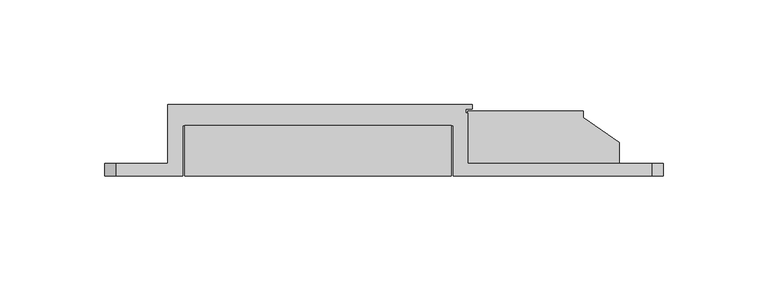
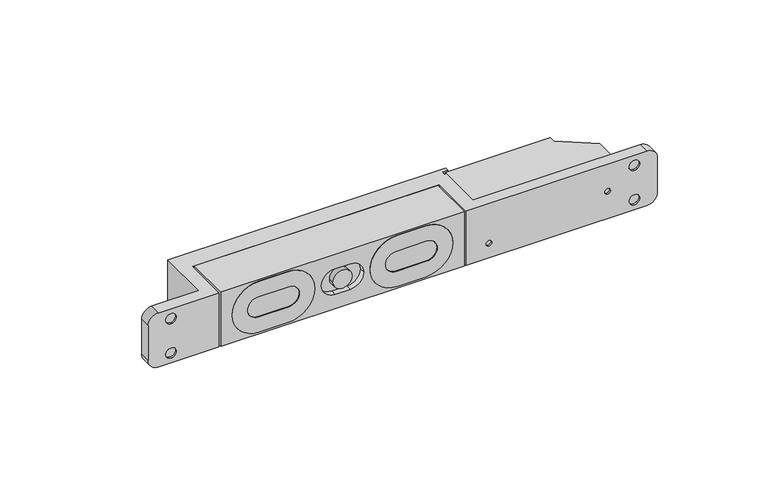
"""IFC4 building model written with IfcOpenShell, lengths in millimetres: proxy geometry, Электромагнитный_замок_ML-1200N2(1)_AccordTec_R19 : Электромагнитный_замок_ML-1200N2(1)_AccordTec_R19."""

import ifcopenshell
import ifcopenshell.guid

model = None  # the IFC model being written
_history = None  # IfcOwnerHistory: only IFC2X3 demands one
_inside = {}  # id of a spatial element -> (the spatial element, [elements in it])
_under = {}  # id of a project, library or spatial element -> (it, [spatial elements below it])
_declared = {}  # id of a project -> (the project, [libraries it declares])
_typed = {}  # id of a type object -> (the type object, [elements of that type])
_made_of = {}  # id of a material, layer set ... -> (it, [elements and type objects made of it])


def new_model(schema):
    """Start an empty IFC model of exactly this schema.

    Asked for "IFC4X3", IfcOpenShell would pick the latest addendum, in which some entities
    have other attributes; the version numbers below select the first issue.
    IFC2X3 requires an IfcOwnerHistory on every rooted entity: one is made here for all.
    """
    global model, _history
    if schema == "IFC4X3":
        model = ifcopenshell.file(schema_version=(4, 3, 0, 0))
    else:
        model = ifcopenshell.file(schema=schema)
    _inside.clear()
    _under.clear()
    _declared.clear()
    _typed.clear()
    _made_of.clear()
    _history = None
    if model.schema == "IFC2X3":
        org = make("IfcOrganization", Name="unknown")
        user = make(
            "IfcPersonAndOrganization",
            ThePerson=make("IfcPerson", FamilyName="unknown"),
            TheOrganization=org,
        )
        app = make(
            "IfcApplication",
            ApplicationDeveloper=org,
            Version="unknown",
            ApplicationFullName="unknown",
            ApplicationIdentifier="unknown",
        )
        _history = make(
            "IfcOwnerHistory",
            OwningUser=user,
            OwningApplication=app,
            ChangeAction="ADDED",
            CreationDate=0,
        )
    return model


def make(cls, **values):
    """One entity of the class cls with the attributes given. An attribute that is None is left unset."""
    return model.create_entity(
        cls, **{name: value for name, value in values.items() if value is not None}
    )


def rooted(cls, **values):
    """An entity with a GlobalId (a new one), such as an element, a storey or a relation."""
    return make(cls, GlobalId=ifcopenshell.guid.new(), OwnerHistory=_history, **values)


def si_unit(unit_type, name, prefix=None):
    """IfcSIUnit, for example si_unit("LENGTHUNIT", "METRE", prefix="MILLI")."""
    return make("IfcSIUnit", UnitType=unit_type, Prefix=prefix, Name=name)


def assignment(units):
    """IfcUnitAssignment: the units of a project."""
    return None if units is None else make("IfcUnitAssignment", Units=units)


def point(xyz):
    """IfcCartesianPoint."""
    return None if xyz is None else make("IfcCartesianPoint", Coordinates=xyz)


def direction(xyz):
    """IfcDirection."""
    return None if xyz is None else make("IfcDirection", DirectionRatios=xyz)


def frame(location, z_axis=None, x_axis=None):
    """IfcAxis2Placement3D, a coordinate frame: its origin and axes. An axis left out is left unset."""
    return make(
        "IfcAxis2Placement3D",
        Location=point(location),
        Axis=direction(z_axis),
        RefDirection=direction(x_axis),
    )


def frame_2d(location, x_axis=None):
    """IfcAxis2Placement2D, a coordinate frame in the plane: its origin and x axis."""
    return make(
        "IfcAxis2Placement2D", Location=point(location), RefDirection=direction(x_axis)
    )


def origin():
    """The frame at (0, 0, 0) with its axes left unset."""
    return frame((0.0, 0.0, 0.0))


def origin_with_axes():
    """The frame at (0, 0, 0) with the z axis (0, 0, 1) and the x axis (1, 0, 0) written out."""
    return frame((0.0, 0.0, 0.0), z_axis=(0.0, 0.0, 1.0), x_axis=(1.0, 0.0, 0.0))


def place(relative_to, where):
    """IfcLocalPlacement: puts the frame where relative to a parent placement (None: the world)."""
    return make(
        "IfcLocalPlacement", PlacementRelTo=relative_to, RelativePlacement=where
    )


def context(
    kind, dimensions, precision=None, world=None, true_north=None, identifier=None
):
    """IfcGeometricRepresentationContext, for example the 3D "Model" context."""
    return make(
        "IfcGeometricRepresentationContext",
        ContextIdentifier=identifier,
        ContextType=kind,
        CoordinateSpaceDimension=dimensions,
        Precision=precision,
        WorldCoordinateSystem=world,
        TrueNorth=true_north,
    )


def project(units=None, contexts=None):
    """IfcProject with its units and contexts."""
    return rooted(
        "IfcProject",
        Name="project",
        RepresentationContexts=contexts,
        UnitsInContext=assignment(units),
    )


def spatial(cls, under=None, at=None, **own):
    """A site, building, storey or space (cls), placed at a placement, below another one or the project."""
    s = rooted(cls, ObjectPlacement=at, **own)
    if under is not None:
        _under.setdefault(under.id(), (under, []))[1].append(s)
    return s


def polyline(points):
    """IfcPolyline through the points."""
    return make("IfcPolyline", Points=[point(p) for p in points])


def circle_curve(where, radius):
    """IfcCircle in the frame where."""
    return make("IfcCircle", Position=where, Radius=radius)


def trimmed(basis, trim1, trim2, sense, master):
    """IfcTrimmedCurve: the piece of a basis curve between two trims."""
    return make(
        "IfcTrimmedCurve",
        BasisCurve=basis,
        Trim1=trim1,
        Trim2=trim2,
        SenseAgreement=sense,
        MasterRepresentation=master,
    )


def segment(curve, same_sense, transition):
    """IfcCompositeCurveSegment."""
    return make(
        "IfcCompositeCurveSegment",
        Transition=transition,
        SameSense=same_sense,
        ParentCurve=curve,
    )


def composite_curve(segments, self_intersect=None):
    """IfcCompositeCurve: segments joined end to end."""
    return make("IfcCompositeCurve", Segments=segments, SelfIntersect=self_intersect)


def outline(outer, holes=None, kind="AREA"):
    """IfcArbitraryClosedProfileDef: a profile drawn as a closed curve; with holes, ...WithVoids."""
    if holes is None:
        return make("IfcArbitraryClosedProfileDef", ProfileType=kind, OuterCurve=outer)
    return make(
        "IfcArbitraryProfileDefWithVoids",
        ProfileType=kind,
        OuterCurve=outer,
        InnerCurves=holes,
    )


def extrude(swept, where, along, depth):
    """IfcExtrudedAreaSolid: the profile swept, set in the frame where, extruded along a direction by depth."""
    return make(
        "IfcExtrudedAreaSolid",
        SweptArea=swept,
        Position=where,
        ExtrudedDirection=direction(along),
        Depth=depth,
    )


def shape(context_of_items, identifier, shape_type, items):
    """IfcShapeRepresentation: the items that make up one representation, for example the "Body"."""
    return make(
        "IfcShapeRepresentation",
        ContextOfItems=context_of_items,
        RepresentationIdentifier=identifier,
        RepresentationType=shape_type,
        Items=items,
    )


def source(mapping_origin, context_of_items, identifier, shape_type, items):
    """IfcRepresentationMap: a shape defined once, which mapped items show again and again."""
    return make(
        "IfcRepresentationMap",
        MappingOrigin=mapping_origin,
        MappedRepresentation=shape(context_of_items, identifier, shape_type, items),
    )


def transform(
    local_origin,
    x_axis=None,
    y_axis=None,
    z_axis=None,
    scale=None,
    scale2=None,
    scale3=None,
    uniform=True,
):
    """IfcCartesianTransformationOperator3D, or its non-uniform kind. x_axis, y_axis, z_axis: its Axis1, 2, 3."""
    if uniform:
        return make(
            "IfcCartesianTransformationOperator3D",
            Axis1=direction(x_axis),
            Axis2=direction(y_axis),
            LocalOrigin=point(local_origin),
            Scale=scale,
            Axis3=direction(z_axis),
        )
    return make(
        "IfcCartesianTransformationOperator3DnonUniform",
        Axis1=direction(x_axis),
        Axis2=direction(y_axis),
        LocalOrigin=point(local_origin),
        Scale=scale,
        Axis3=direction(z_axis),
        Scale2=scale2,
        Scale3=scale3,
    )


def mapped(mapping_source, mapping_target):
    """IfcMappedItem: shows the shape of a source again, moved by a transform."""
    return make(
        "IfcMappedItem", MappingSource=mapping_source, MappingTarget=mapping_target
    )


def made_of(thing, what):
    """Note that an element or type object is made of a material, layer set ...; save() writes the relation."""
    if what is not None:
        _made_of.setdefault(what.id(), (what, []))[1].append(thing)
    return thing


def element(
    cls,
    number,
    at=None,
    inside=None,
    cuts=None,
    type_object=None,
    material=None,
    context=None,
    identifier="Body",
    shape_type=None,
    held_by="IfcProductDefinitionShape",
    body=None,
    shapes=None,
    **own,
):
    """One element of the class cls, such as IfcWall. Its Tag is "e" and its number.

    at: its placement. inside: the storey or other place that contains it. cuts: it is an
    opening in that element (IfcRelVoidsElement). A single representation is given by context,
    identifier, shape_type and body (its items); several are given by shapes. held_by: the class
    of the entity that holds the representations. save() writes the other relations.
    """
    e = rooted(cls, Tag="e%d" % number, ObjectPlacement=at, **own)
    if body is not None:
        shapes = [shape(context, identifier, shape_type, body)]
    if shapes is not None:
        e.Representation = make(held_by, Representations=shapes)
    if inside is not None:
        _inside.setdefault(inside.id(), (inside, []))[1].append(e)
    if cuts is not None:
        rooted(
            "IfcRelVoidsElement", RelatingBuildingElement=cuts, RelatedOpeningElement=e
        )
    if type_object is not None:
        _typed.setdefault(type_object.id(), (type_object, []))[1].append(e)
    return made_of(e, material)


def aggregate(whole, parts):
    """IfcRelAggregates: a whole, such as a stair, and the parts it consists of."""
    return rooted("IfcRelAggregates", RelatingObject=whole, RelatedObjects=parts)


def save(model, path):
    """Write the relations noted so far, then the file.

    IfcRelAggregates (storeys below a building ...), IfcRelContainedInSpatialStructure (elements
    in a storey), IfcRelDefinesByType, IfcRelAssociatesMaterial and IfcRelDeclares: one each for
    every whole, place, type object, material and project.
    """
    for whole, parts in _under.values():
        aggregate(whole, parts)
    for where, things in _inside.values():
        rooted(
            "IfcRelContainedInSpatialStructure",
            RelatedElements=things,
            RelatingStructure=where,
        )
    for kind, things in _typed.values():
        rooted("IfcRelDefinesByType", RelatedObjects=things, RelatingType=kind)
    for what, things in _made_of.values():
        rooted("IfcRelAssociatesMaterial", RelatedObjects=things, RelatingMaterial=what)
    for by, libraries in _declared.values():
        rooted("IfcRelDeclares", RelatingContext=by, RelatedDefinitions=libraries)
    model.write(path)


def plane_surface(at):
    """IfcPlane: the flat surface through the origin of the frame at, square to its z axis."""
    return make("IfcPlane", Position=at)


def cylinder_surface(at, radius):
    """IfcCylindricalSurface: all points at the distance radius from the z axis of the frame at."""
    return make("IfcCylindricalSurface", Position=at, Radius=radius)


def revolved_surface(curve, axis_point, axis_direction):
    """IfcSurfaceOfRevolution: the curve turned about the line through axis_point along axis_direction."""
    return make(
        "IfcSurfaceOfRevolution",
        SweptCurve=make("IfcArbitraryOpenProfileDef", ProfileType="CURVE", Curve=curve),
        AxisPosition=make("IfcAxis1Placement", Location=point(axis_point), Axis=direction(axis_direction)),
    )


def advanced_brep(points, edges, surfaces, faces):
    """IfcAdvancedBrep: a solid bounded by faces that lie on surfaces and meet in shared edges.

    An edge is (start, end): straight between two places in points (the first is 0);
    or (start, end, curve); or (start, end, curve, False) where it runs against its curve.
    A face is (place in surfaces, loops), or (place, loops, False) where it looks against
    its surface's normal. A loop lists edges by number (the first is 1), with a minus sign
    where the edge is run from its end to its start. The first loop is the outer one.
    """
    corners = [point(p) for p in points]
    vertices = [make("IfcVertexPoint", VertexGeometry=c) for c in corners]
    made = []
    for start, end, *more in edges:
        made.append(
            make(
                "IfcEdgeCurve",
                EdgeStart=vertices[start],
                EdgeEnd=vertices[end],
                EdgeGeometry=more[0] if more else make("IfcPolyline", Points=[corners[start], corners[end]]),
                SameSense=more[1] if len(more) > 1 else True,
            )
        )
    hull = []
    for where, loops, *sense in faces:
        bounds = []
        for j, loop in enumerate(loops):
            ring = [make("IfcOrientedEdge", EdgeElement=made[abs(k) - 1], Orientation=k > 0) for k in loop]
            bounds.append(
                make(
                    "IfcFaceOuterBound" if j == 0 else "IfcFaceBound",
                    Bound=make("IfcEdgeLoop", EdgeList=ring),
                    Orientation=True,
                )
            )
        hull.append(make("IfcAdvancedFace", Bounds=bounds, FaceSurface=surfaces[where], SameSense=sense[0] if sense else True))
    return make("IfcAdvancedBrep", Outer=make("IfcClosedShell", CfsFaces=hull))


def generic_models_a7cd2422(model_context):
    return source(origin(), model_context, "Body", "SolidModel", [
        extrude(outline(composite_curve([segment(trimmed(circle_curve(frame_2d((14.96, 58.04)), 14.04), [point((29.0, 58.04))], [point((15.0, 44.000057))], False, "CARTESIAN"), True, "CONTINUOUS"), segment(trimmed(circle_curve(frame_2d((15.04, 58.04)), 14.04), [point((15.0, 44.000057))], [point((1.0, 58.04))], False, "CARTESIAN"), True, "CONTINUOUS"), segment(polyline([(1.0, 58.04), (1.0, 72.96)]), True, "CONTINUOUS"), segment(trimmed(circle_curve(frame_2d((15.04, 72.96)), 14.04), [point((1.0, 72.96))], [point((15.0, 86.999943))], False, "CARTESIAN"), True, "CONTINUOUS"), segment(trimmed(circle_curve(frame_2d((14.96, 72.96)), 14.04), [point((15.0, 86.999943))], [point((29.0, 72.96))], False, "CARTESIAN"), True, "CONTINUOUS"), segment(polyline([(29.0, 72.96), (29.0, 58.04)]), True, "CONTINUOUS")], self_intersect=False), holes=[composite_curve([segment(trimmed(circle_curve(frame_2d((15.0, 73.5)), 5.5), [point((15.0, 79.0))], [point((9.5, 73.5))], True, "CARTESIAN"), True, "CONTINUOUS"), segment(polyline([(9.5, 73.5), (9.5, 57.5)]), True, "CONTINUOUS"), segment(trimmed(circle_curve(frame_2d((15.0, 57.5)), 5.5), [point((9.5, 57.5))], [point((15.0, 52.0))], True, "CARTESIAN"), True, "CONTINUOUS"), segment(trimmed(circle_curve(frame_2d((15.0, 57.5)), 5.5), [point((15.0, 52.0))], [point((20.5, 57.5))], True, "CARTESIAN"), True, "CONTINUOUS"), segment(polyline([(20.5, 57.5), (20.5, 73.5)]), True, "CONTINUOUS"), segment(trimmed(circle_curve(frame_2d((15.0, 73.5)), 5.5), [point((20.5, 73.5))], [point((15.0, 79.0))], True, "CARTESIAN"), True, "CONTINUOUS")], self_intersect=False)]), frame((0.0, 0.0, 0.0), z_axis=(0.0, 1.0, 0.0), x_axis=(0.0, 0.0, 1.0)), (0.0, 0.0, 1.0), 1.0),
        extrude(outline(composite_curve([segment(trimmed(circle_curve(frame_2d((15.04, 130.04)), 14.04), [point((15.0, 116.000057))], [point((1.0, 130.04))], False, "CARTESIAN"), True, "CONTINUOUS"), segment(polyline([(1.0, 130.04), (1.0, 144.96)]), True, "CONTINUOUS"), segment(trimmed(circle_curve(frame_2d((15.04, 144.96)), 14.04), [point((1.0, 144.96))], [point((15.0, 158.999943))], False, "CARTESIAN"), True, "CONTINUOUS"), segment(trimmed(circle_curve(frame_2d((14.96, 144.96)), 14.04), [point((15.0, 158.999943))], [point((29.0, 144.96))], False, "CARTESIAN"), True, "CONTINUOUS"), segment(polyline([(29.0, 144.96), (29.0, 130.04)]), True, "CONTINUOUS"), segment(trimmed(circle_curve(frame_2d((14.96, 130.04)), 14.04), [point((29.0, 130.04))], [point((15.0, 116.000057))], False, "CARTESIAN"), True, "CONTINUOUS")], self_intersect=False), holes=[composite_curve([segment(polyline([(20.5, 129.5), (20.5, 145.5)]), True, "CONTINUOUS"), segment(trimmed(circle_curve(frame_2d((15.0, 145.5)), 5.5), [point((20.5, 145.5))], [point((15.0, 151.0))], True, "CARTESIAN"), True, "CONTINUOUS"), segment(trimmed(circle_curve(frame_2d((15.0, 145.5)), 5.5), [point((15.0, 151.0))], [point((9.5, 145.5))], True, "CARTESIAN"), True, "CONTINUOUS"), segment(polyline([(9.5, 145.5), (9.5, 129.5)]), True, "CONTINUOUS"), segment(trimmed(circle_curve(frame_2d((15.0, 129.5)), 5.5), [point((9.5, 129.5))], [point((15.0, 124.0))], True, "CARTESIAN"), True, "CONTINUOUS"), segment(trimmed(circle_curve(frame_2d((15.0, 129.5)), 5.5), [point((15.0, 124.0))], [point((20.5, 129.5))], True, "CARTESIAN"), True, "CONTINUOUS")], self_intersect=False)]), frame((0.0, 0.0, 0.0), z_axis=(0.0, 1.0, 0.0), x_axis=(0.0, 0.0, 1.0)), (0.0, 0.0, 1.0), 1.0),
        advanced_brep(
        [(165.0, 24.0, 30.0), (38.0, 24.0, 30.0), (38.0, 0.0, 30.0), (165.0, 0.0, 30.0), (165.0, 24.0, 0.0), (165.0, 0.0, 0.0), (38.0, 0.0, 0.0), (38.0, 24.0, 0.0), (44.000057, 0.0, 15.0), (58.04, 0.0, 29.0), (72.96, 0.0, 29.0), (86.999943, 0.0, 15.0), (72.96, 0.0, 1.0), (58.04, 0.0, 1.0), (130.04, 0.0, 1.0), (116.000057, 0.0, 15.0), (130.04, 0.0, 29.0), (144.96, 0.0, 29.0), (158.999943, 0.0, 15.0), (144.96, 0.0, 1.0), (97.5, 0.0, 22.0), (105.5, 0.0, 22.0), (112.5, 0.0, 15.0), (105.5, 0.0, 8.0), (97.5, 0.0, 8.0), (90.5, 0.0, 15.0), (57.5, 0.0, 20.5), (52.0, 0.0, 15.0), (57.5, 0.0, 9.5), (73.5, 0.0, 9.5), (79.0, 0.0, 15.0), (73.5, 0.0, 20.5), (124.0, 0.0, 15.0), (129.5, 0.0, 9.5), (145.5, 0.0, 9.5), (151.0, 0.0, 15.0), (145.5, 0.0, 20.5), (129.5, 0.0, 20.5), (106.5, 0.0, 15.0), (96.5, 0.0, 15.0), (58.04, 3.0, 29.0), (44.000057, 3.0, 15.0), (58.04, 3.0, 1.0), (72.96, 3.0, 1.0), (86.999943, 3.0, 15.0), (72.96, 3.0, 29.0), (52.0, 3.0, 15.0), (57.5, 3.0, 20.5), (73.5, 3.0, 20.5), (79.0, 3.0, 15.0), (73.5, 3.0, 9.5), (57.5, 3.0, 9.5), (116.000057, 3.0, 15.0), (130.04, 3.0, 1.0), (144.96, 3.0, 1.0), (158.999943, 3.0, 15.0), (144.96, 3.0, 29.0), (130.04, 3.0, 29.0), (129.5, 3.0, 9.5), (124.0, 3.0, 15.0), (129.5, 3.0, 20.5), (145.5, 3.0, 20.5), (151.0, 3.0, 15.0), (145.5, 3.0, 9.5), (105.5, 3.0, 22.0), (97.5, 3.0, 22.0), (90.5, 3.0, 15.0), (97.5, 3.0, 8.0), (105.5, 3.0, 8.0), (112.5, 3.0, 15.0), (96.5, 3.0, 15.0), (106.5, 3.0, 15.0)],
        [
            (0, 1),
            (1, 2),
            (2, 3),
            (3, 0),
            (4, 5),
            (5, 6),
            (6, 7),
            (7, 4),
            (0, 4),
            (7, 1),
            (6, 2),
            (5, 3),
            (8, 9, circle_curve(frame((58.04, 0.0, 14.96), z_axis=(0.0, 1.0, 0.0), x_axis=(1.0, 0.0, 0.0)), 14.04)),
            (9, 10),
            (10, 11, circle_curve(frame((72.96, 0.0, 14.96), z_axis=(0.0, 1.0, 0.0), x_axis=(1.0, 0.0, 0.0)), 14.04)),
            (11, 12, circle_curve(frame((72.96, 0.0, 15.04), z_axis=(0.0, 1.0, 0.0), x_axis=(1.0, 0.0, 0.0)), 14.04)),
            (12, 13),
            (13, 8, circle_curve(frame((58.04, 0.0, 15.04), z_axis=(0.0, 1.0, 0.0), x_axis=(1.0, 0.0, 0.0)), 14.04)),
            (14, 15, circle_curve(frame((130.04, 0.0, 15.04), z_axis=(0.0, 1.0, 0.0), x_axis=(1.0, 0.0, 0.0)), 14.04)),
            (15, 16, circle_curve(frame((130.04, 0.0, 14.96), z_axis=(0.0, 1.0, 0.0), x_axis=(1.0, 0.0, 0.0)), 14.04)),
            (16, 17),
            (17, 18, circle_curve(frame((144.96, 0.0, 14.96), z_axis=(0.0, 1.0, 0.0), x_axis=(1.0, 0.0, 0.0)), 14.04)),
            (18, 19, circle_curve(frame((144.96, 0.0, 15.04), z_axis=(0.0, 1.0, 0.0), x_axis=(1.0, 0.0, 0.0)), 14.04)),
            (19, 14),
            (20, 21),
            (21, 22, circle_curve(frame((105.5, 0.0, 15.0), z_axis=(0.0, 1.0, 0.0), x_axis=(1.0, 0.0, 0.0)), 7.0)),
            (22, 23, circle_curve(frame((105.5, 0.0, 15.0), z_axis=(0.0, 1.0, 0.0), x_axis=(1.0, 0.0, 0.0)), 7.0)),
            (23, 24),
            (24, 25, circle_curve(frame((97.5, 0.0, 15.0), z_axis=(0.0, 1.0, 0.0), x_axis=(1.0, 0.0, 0.0)), 7.0)),
            (25, 20, circle_curve(frame((97.5, 0.0, 15.0), z_axis=(0.0, 1.0, 0.0), x_axis=(1.0, 0.0, 0.0)), 7.0)),
            (26, 27, circle_curve(frame((57.5, 0.0, 15.0), z_axis=(0.0, -1.0, 0.0), x_axis=(1.0, 0.0, 0.0)), 5.5)),
            (27, 28, circle_curve(frame((57.5, 0.0, 15.0), z_axis=(0.0, -1.0, 0.0), x_axis=(1.0, 0.0, 0.0)), 5.5)),
            (28, 29),
            (29, 30, circle_curve(frame((73.5, 0.0, 15.0), z_axis=(0.0, -1.0, 0.0), x_axis=(1.0, 0.0, 0.0)), 5.5)),
            (30, 31, circle_curve(frame((73.5, 0.0, 15.0), z_axis=(0.0, -1.0, 0.0), x_axis=(1.0, 0.0, 0.0)), 5.5)),
            (31, 26),
            (32, 33, circle_curve(frame((129.5, 0.0, 15.0), z_axis=(0.0, -1.0, 0.0), x_axis=(1.0, 0.0, 0.0)), 5.5)),
            (33, 34),
            (34, 35, circle_curve(frame((145.5, 0.0, 15.0), z_axis=(0.0, -1.0, 0.0), x_axis=(1.0, 0.0, 0.0)), 5.5)),
            (35, 36, circle_curve(frame((145.5, 0.0, 15.0), z_axis=(0.0, -1.0, 0.0), x_axis=(1.0, 0.0, 0.0)), 5.5)),
            (36, 37),
            (37, 32, circle_curve(frame((129.5, 0.0, 15.0), z_axis=(0.0, -1.0, 0.0), x_axis=(1.0, 0.0, 0.0)), 5.5)),
            (38, 39, circle_curve(frame((101.5, 0.0, 15.0), z_axis=(0.0, -1.0, 0.0), x_axis=(1.0, 0.0, 0.0)), 5.0)),
            (39, 38, circle_curve(frame((101.5, 0.0, 15.0), z_axis=(0.0, -1.0, 0.0), x_axis=(1.0, 0.0, 0.0)), 5.0)),
            (40, 41, circle_curve(frame((58.04, 3.0, 14.96), z_axis=(0.0, -1.0, 0.0), x_axis=(1.0, 0.0, 0.0)), 14.04)),
            (41, 42, circle_curve(frame((58.04, 3.0, 15.04), z_axis=(0.0, -1.0, 0.0), x_axis=(1.0, 0.0, 0.0)), 14.04)),
            (42, 43),
            (43, 44, circle_curve(frame((72.96, 3.0, 15.04), z_axis=(0.0, -1.0, 0.0), x_axis=(1.0, 0.0, 0.0)), 14.04)),
            (44, 45, circle_curve(frame((72.96, 3.0, 14.96), z_axis=(0.0, -1.0, 0.0), x_axis=(1.0, 0.0, 0.0)), 14.04)),
            (45, 40),
            (46, 47, circle_curve(frame((57.5, 3.0, 15.0), z_axis=(0.0, 1.0, 0.0), x_axis=(1.0, 0.0, 0.0)), 5.5)),
            (47, 48),
            (48, 49, circle_curve(frame((73.5, 3.0, 15.0), z_axis=(0.0, 1.0, 0.0), x_axis=(1.0, 0.0, 0.0)), 5.5)),
            (49, 50, circle_curve(frame((73.5, 3.0, 15.0), z_axis=(0.0, 1.0, 0.0), x_axis=(1.0, 0.0, 0.0)), 5.5)),
            (50, 51),
            (51, 46, circle_curve(frame((57.5, 3.0, 15.0), z_axis=(0.0, 1.0, 0.0), x_axis=(1.0, 0.0, 0.0)), 5.5)),
            (52, 53, circle_curve(frame((130.04, 3.0, 15.04), z_axis=(0.0, -1.0, 0.0), x_axis=(1.0, 0.0, 0.0)), 14.04)),
            (53, 54),
            (54, 55, circle_curve(frame((144.96, 3.0, 15.04), z_axis=(0.0, -1.0, 0.0), x_axis=(1.0, 0.0, 0.0)), 14.04)),
            (55, 56, circle_curve(frame((144.96, 3.0, 14.96), z_axis=(0.0, -1.0, 0.0), x_axis=(1.0, 0.0, 0.0)), 14.04)),
            (56, 57),
            (57, 52, circle_curve(frame((130.04, 3.0, 14.96), z_axis=(0.0, -1.0, 0.0), x_axis=(1.0, 0.0, 0.0)), 14.04)),
            (58, 59, circle_curve(frame((129.5, 3.0, 15.0), z_axis=(0.0, 1.0, 0.0), x_axis=(1.0, 0.0, 0.0)), 5.5)),
            (59, 60, circle_curve(frame((129.5, 3.0, 15.0), z_axis=(0.0, 1.0, 0.0), x_axis=(1.0, 0.0, 0.0)), 5.5)),
            (60, 61),
            (61, 62, circle_curve(frame((145.5, 3.0, 15.0), z_axis=(0.0, 1.0, 0.0), x_axis=(1.0, 0.0, 0.0)), 5.5)),
            (62, 63, circle_curve(frame((145.5, 3.0, 15.0), z_axis=(0.0, 1.0, 0.0), x_axis=(1.0, 0.0, 0.0)), 5.5)),
            (63, 58),
            (64, 65),
            (65, 66, circle_curve(frame((97.5, 3.0, 15.0), z_axis=(0.0, -1.0, 0.0), x_axis=(1.0, 0.0, 0.0)), 7.0)),
            (66, 67, circle_curve(frame((97.5, 3.0, 15.0), z_axis=(0.0, -1.0, 0.0), x_axis=(1.0, 0.0, 0.0)), 7.0)),
            (67, 68),
            (68, 69, circle_curve(frame((105.5, 3.0, 15.0), z_axis=(0.0, -1.0, 0.0), x_axis=(1.0, 0.0, 0.0)), 7.0)),
            (69, 64, circle_curve(frame((105.5, 3.0, 15.0), z_axis=(0.0, -1.0, 0.0), x_axis=(1.0, 0.0, 0.0)), 7.0)),
            (70, 71, circle_curve(frame((101.5, 3.0, 15.0), z_axis=(0.0, 1.0, 0.0), x_axis=(1.0, 0.0, 0.0)), 5.0)),
            (71, 70, circle_curve(frame((101.5, 3.0, 15.0), z_axis=(0.0, 1.0, 0.0), x_axis=(1.0, 0.0, 0.0)), 5.0)),
            (40, 9),
            (8, 41),
            (13, 42),
            (12, 43),
            (11, 44),
            (10, 45),
            (46, 27),
            (26, 47),
            (31, 48),
            (30, 49),
            (29, 50),
            (28, 51),
            (52, 15),
            (14, 53),
            (19, 54),
            (18, 55),
            (17, 56),
            (16, 57),
            (58, 33),
            (32, 59),
            (37, 60),
            (36, 61),
            (35, 62),
            (34, 63),
            (64, 21),
            (20, 65),
            (25, 66),
            (24, 67),
            (23, 68),
            (22, 69),
            (70, 39),
            (38, 71),
        ],
        [
            plane_surface(frame((38.0, 24.0, 30.0), z_axis=(0.0, 0.0, 1.0), x_axis=(-1.0, 0.0, 0.0))),
            plane_surface(frame((38.0, 24.0, 0.0), z_axis=(0.0, 0.0, -1.0), x_axis=(1.0, 0.0, 0.0))),
            plane_surface(frame((165.0, 24.0, 30.0), z_axis=(0.0, 1.0, 0.0), x_axis=(0.0, 0.0, -1.0))),
            plane_surface(frame((38.0, 24.0, 30.0), z_axis=(-1.0, 0.0, 0.0), x_axis=(0.0, 0.0, -1.0))),
            plane_surface(frame((38.0, 0.0, 30.0), z_axis=(0.0, -1.0, 0.0), x_axis=(0.0, 0.0, -1.0))),
            plane_surface(frame((165.0, 0.0, 30.0), z_axis=(1.0, 0.0, 0.0), x_axis=(0.0, 0.0, -1.0))),
            plane_surface(frame((72.08, 3.0, 14.96), z_axis=(0.0, -1.0, 0.0), x_axis=(0.0, 0.0, -1.0))),
            revolved_surface(polyline([(72.08, 0.0, 14.96), (72.08, 3.0, 14.96)]), (58.04, 3.0, 14.96), (0.0, -1.0, 0.0)),
            revolved_surface(polyline([(72.08, 0.0, 15.04), (72.08, 3.0, 15.04)]), (58.04, 3.0, 15.04), (0.0, -1.0, 0.0)),
            plane_surface(frame((58.04, -1.0, 1.0), z_axis=(0.0, 0.0, 1.0), x_axis=(0.0, 1.0, 0.0))),
            revolved_surface(polyline([(87.0, 0.0, 15.04), (87.0, 3.0, 15.04)]), (72.96, 3.0, 15.04), (0.0, -1.0, 0.0)),
            revolved_surface(polyline([(87.0, 0.0, 14.96), (87.0, 3.0, 14.96)]), (72.96, 3.0, 14.96), (0.0, -1.0, 0.0)),
            plane_surface(frame((72.96, -1.0, 29.0), z_axis=(0.0, 0.0, -1.0), x_axis=(0.0, 1.0, 0.0))),
            cylinder_surface(frame((57.5, 0.0, 15.0), z_axis=(0.0, 1.0, 0.0), x_axis=(1.0, 0.0, 0.0)), 5.5),
            plane_surface(frame((57.5, -1.0, 20.5), z_axis=(0.0, 0.0, 1.0), x_axis=(0.0, 1.0, 0.0))),
            cylinder_surface(frame((73.5, 0.0, 15.0), z_axis=(0.0, 1.0, 0.0), x_axis=(1.0, 0.0, 0.0)), 5.5),
            plane_surface(frame((73.5, -1.0, 9.5), z_axis=(0.0, 0.0, -1.0), x_axis=(0.0, 1.0, 0.0))),
            revolved_surface(polyline([(144.07999999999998, 0.0, 15.04), (144.07999999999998, 3.0, 15.04)]), (130.04, 0.0, 15.04), (0.0, -1.0, 0.0)),
            plane_surface(frame((130.04, -1.0, 1.0), z_axis=(0.0, 0.0, 1.0), x_axis=(0.0, 1.0, 0.0))),
            revolved_surface(polyline([(159.0, 0.0, 15.04), (159.0, 3.0, 15.04)]), (144.96, 0.0, 15.04), (0.0, -1.0, 0.0)),
            revolved_surface(polyline([(159.0, 0.0, 14.96), (159.0, 3.0, 14.96)]), (144.96, 0.0, 14.96), (0.0, -1.0, 0.0)),
            plane_surface(frame((144.96, -1.0, 29.0), z_axis=(0.0, 0.0, -1.0), x_axis=(0.0, 1.0, 0.0))),
            revolved_surface(polyline([(144.07999999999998, 0.0, 14.96), (144.07999999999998, 3.0, 14.96)]), (130.04, 0.0, 14.96), (0.0, -1.0, 0.0)),
            cylinder_surface(frame((129.5, 0.0, 15.0), z_axis=(0.0, 1.0, 0.0), x_axis=(1.0, 0.0, 0.0)), 5.5),
            plane_surface(frame((129.5, -1.0, 20.5), z_axis=(0.0, 0.0, 1.0), x_axis=(0.0, 1.0, 0.0))),
            cylinder_surface(frame((145.5, 0.0, 15.0), z_axis=(0.0, 1.0, 0.0), x_axis=(1.0, 0.0, 0.0)), 5.5),
            plane_surface(frame((145.5, -1.0, 9.5), z_axis=(0.0, 0.0, -1.0), x_axis=(0.0, 1.0, 0.0))),
            plane_surface(frame((105.5, -1.0, 22.0), z_axis=(0.0, 0.0, -1.0), x_axis=(0.0, 1.0, 0.0))),
            revolved_surface(polyline([(104.5, 0.0, 15.0), (104.5, 3.0, 15.0)]), (97.5, 0.0, 15.0), (0.0, -1.0, 0.0)),
            plane_surface(frame((97.5, -1.0, 8.0), z_axis=(0.0, 0.0, 1.0), x_axis=(0.0, 1.0, 0.0))),
            revolved_surface(polyline([(112.5, 0.0, 15.0), (112.5, 3.0, 15.0)]), (105.5, 0.0, 15.0), (0.0, -1.0, 0.0)),
            cylinder_surface(frame((101.5, 0.0, 15.0), z_axis=(0.0, 1.0, 0.0), x_axis=(1.0, 0.0, 0.0)), 5.0),
        ],
        [
            (0, [[1, 2, 3, 4]]),
            (1, [[5, 6, 7, 8]]),
            (2, [[-1, 9, -8, 10]]),
            (3, [[-2, -10, -7, 11]]),
            (4, [[-3, -11, -6, 12], [13, 14, 15, 16, 17, 18], [19, 20, 21, 22, 23, 24], [25, 26, 27, 28, 29, 30]]),
            (4, [[31, 32, 33, 34, 35, 36]]),
            (4, [[37, 38, 39, 40, 41, 42]]),
            (4, [[43, 44]]),
            (5, [[-4, -12, -5, -9]]),
            (6, [[45, 46, 47, 48, 49, 50], [51, 52, 53, 54, 55, 56]]),
            (6, [[57, 58, 59, 60, 61, 62], [63, 64, 65, 66, 67, 68]]),
            (6, [[69, 70, 71, 72, 73, 74], [75, 76]]),
            (7, [[-45, 77, -13, 78]]),
            (8, [[-46, -78, -18, 79]]),
            (9, [[-47, -79, -17, 80]]),
            (10, [[-48, -80, -16, 81]]),
            (11, [[-49, -81, -15, 82]]),
            (12, [[-50, -82, -14, -77]]),
            (13, [[-51, 83, -31, 84]]),
            (14, [[-52, -84, -36, 85]]),
            (15, [[-53, -85, -35, 86]]),
            (15, [[-54, -86, -34, 87]]),
            (16, [[-55, -87, -33, 88]]),
            (13, [[-56, -88, -32, -83]]),
            (17, [[-57, 89, -19, 90]]),
            (18, [[-58, -90, -24, 91]]),
            (19, [[-59, -91, -23, 92]]),
            (20, [[-60, -92, -22, 93]]),
            (21, [[-61, -93, -21, 94]]),
            (22, [[-62, -94, -20, -89]]),
            (23, [[-63, 95, -37, 96]]),
            (23, [[-64, -96, -42, 97]]),
            (24, [[-65, -97, -41, 98]]),
            (25, [[-66, -98, -40, 99]]),
            (25, [[-67, -99, -39, 100]]),
            (26, [[-68, -100, -38, -95]]),
            (27, [[-69, 101, -25, 102]]),
            (28, [[-70, -102, -30, 103]]),
            (28, [[-71, -103, -29, 104]]),
            (29, [[-72, -104, -28, 105]]),
            (30, [[-73, -105, -27, 106]]),
            (30, [[-74, -106, -26, -101]]),
            (31, [[-75, 107, -43, 108]]),
            (31, [[-76, -108, -44, -107]]),
        ],
    ),
        advanced_brep(
        [(37.0, 0.0, 30.0), (37.0, 24.0, 30.0), (166.0, 24.0, 30.0), (166.0, 0.0, 30.0), (260.5, 0.0, 30.0), (260.5, 6.0, 30.0), (173.0, 6.0, 30.0), (173.0, 30.0, 30.0), (172.0, 30.0, 30.0), (172.0, 32.0, 30.0), (175.0, 32.0, 30.0), (175.0, 34.0, 30.0), (30.0, 34.0, 30.0), (30.0, 6.0, 30.0), (5.4717121, 6.0, 30.0), (5.4717121, 0.0, 30.0), (30.0, 6.0, 0.0), (30.0, 34.0, 0.0), (175.0, 34.0, 0.0), (175.0, 32.0, 0.0), (172.0, 32.0, 0.0), (172.0, 30.0, 0.0), (173.0, 30.0, 0.0), (173.0, 6.0, 0.0), (260.5, 6.0, 0.0), (260.5, 0.0, 0.0), (166.0, 0.0, 0.0), (166.0, 24.0, 0.0), (37.0, 24.0, 0.0), (37.0, 0.0, 0.0), (5.5, 0.0, 0.0), (5.5, 6.0, 0.0), (266.0, 0.0, 5.5), (266.0, 0.0, 24.5), (179.5, 0.0, 8.0), (176.5, 0.0, 8.0), (241.5, 0.0, 15.0), (238.5, 0.0, 15.0), (256.75, 0.0, 24.5), (251.25, 0.0, 24.5), (256.75, 0.0, 5.5), (251.25, 0.0, 5.5), (266.0, 6.0, 5.5), (266.0, 6.0, 24.5), (256.75, 6.0, 24.5), (251.25, 6.0, 24.5), (256.75, 6.0, 5.5), (251.25, 6.0, 5.5), (64.0, 34.0, 15.0), (58.0, 34.0, 15.0), (0.0, 6.0, 5.5), (0.0, 6.0, 24.5282879), (14.75, 6.0, 24.5), (9.25, 6.0, 24.5), (14.75, 6.0, 5.5), (9.25, 6.0, 5.5), (0.0, 0.0, 5.5), (0.0, 0.0, 24.5282879), (14.75, 0.0, 24.5), (9.25, 0.0, 24.5), (14.75, 0.0, 5.5), (9.25, 0.0, 5.5), (9.25, 1.0, 24.5), (14.75, 1.0, 24.5), (9.25, 1.0, 5.5), (14.75, 1.0, 5.5), (176.5, 1.0, 8.0), (179.5, 1.0, 8.0), (238.5, 1.0, 15.0), (241.5, 1.0, 15.0), (251.25, 1.0, 24.5), (256.75, 1.0, 24.5), (251.25, 1.0, 5.5), (256.75, 1.0, 5.5), (64.0, 33.0, 15.0), (58.0, 33.0, 15.0), (14.75, 5.0, 24.5), (9.25, 5.0, 24.5), (14.75, 5.0, 5.5), (9.25, 5.0, 5.5), (256.75, 5.0, 24.5), (251.25, 5.0, 24.5), (256.75, 5.0, 5.5), (251.25, 5.0, 5.5)],
        [
            (0, 1),
            (1, 2),
            (2, 3),
            (3, 4),
            (4, 5),
            (5, 6),
            (6, 7),
            (7, 8),
            (8, 9),
            (9, 10),
            (10, 11),
            (11, 12),
            (12, 13),
            (13, 14),
            (14, 15),
            (15, 0),
            (16, 17),
            (17, 18),
            (18, 19),
            (19, 20),
            (20, 21),
            (21, 22),
            (22, 23),
            (23, 24),
            (24, 25),
            (25, 26),
            (26, 27),
            (27, 28),
            (28, 29),
            (29, 30),
            (30, 31),
            (31, 16),
            (0, 29),
            (28, 1),
            (27, 2),
            (26, 3),
            (25, 32, circle_curve(frame((260.5, 0.0, 5.5), z_axis=(0.0, -1.0, 0.0), x_axis=(1.0, 0.0, 0.0)), 5.5)),
            (32, 33),
            (33, 4, circle_curve(frame((260.5, 0.0, 24.5), z_axis=(0.0, -1.0, 0.0), x_axis=(1.0, 0.0, 0.0)), 5.5)),
            (34, 35, circle_curve(frame((178.0, 0.0, 8.0), z_axis=(0.0, 1.0, 0.0), x_axis=(1.0, 0.0, 0.0)), 1.5)),
            (35, 34, circle_curve(frame((178.0, 0.0, 8.0), z_axis=(0.0, 1.0, 0.0), x_axis=(1.0, 0.0, 0.0)), 1.5)),
            (36, 37, circle_curve(frame((240.0, 0.0, 15.0), z_axis=(0.0, 1.0, 0.0), x_axis=(1.0, 0.0, 0.0)), 1.5)),
            (37, 36, circle_curve(frame((240.0, 0.0, 15.0), z_axis=(0.0, 1.0, 0.0), x_axis=(1.0, 0.0, 0.0)), 1.5)),
            (38, 39, circle_curve(frame((254.0, 0.0, 24.5), z_axis=(0.0, 1.0, 0.0), x_axis=(1.0, 0.0, 0.0)), 2.75)),
            (39, 38, circle_curve(frame((254.0, 0.0, 24.5), z_axis=(0.0, 1.0, 0.0), x_axis=(1.0, 0.0, 0.0)), 2.75)),
            (40, 41, circle_curve(frame((254.0, 0.0, 5.5), z_axis=(0.0, 1.0, 0.0), x_axis=(1.0, 0.0, 0.0)), 2.75)),
            (41, 40, circle_curve(frame((254.0, 0.0, 5.5), z_axis=(0.0, 1.0, 0.0), x_axis=(1.0, 0.0, 0.0)), 2.75)),
            (32, 42),
            (42, 43),
            (43, 33),
            (23, 6),
            (5, 43, circle_curve(frame((260.5, 6.0, 24.5), z_axis=(0.0, 1.0, 0.0), x_axis=(1.0, 0.0, 0.0)), 5.5)),
            (42, 24, circle_curve(frame((260.5, 6.0, 5.5), z_axis=(0.0, 1.0, 0.0), x_axis=(1.0, 0.0, 0.0)), 5.5)),
            (44, 45, circle_curve(frame((254.0, 6.0, 24.5), z_axis=(0.0, -1.0, 0.0), x_axis=(-1.0, 0.0, 0.0)), 2.75)),
            (45, 44, circle_curve(frame((254.0, 6.0, 24.5), z_axis=(0.0, -1.0, 0.0), x_axis=(-1.0, 0.0, 0.0)), 2.75)),
            (46, 47, circle_curve(frame((254.0, 6.0, 5.5), z_axis=(0.0, -1.0, 0.0), x_axis=(-1.0, 0.0, 0.0)), 2.75)),
            (47, 46, circle_curve(frame((254.0, 6.0, 5.5), z_axis=(0.0, -1.0, 0.0), x_axis=(-1.0, 0.0, 0.0)), 2.75)),
            (22, 7),
            (21, 8),
            (20, 9),
            (19, 10),
            (18, 11),
            (17, 12),
            (48, 49, circle_curve(frame((61.0, 34.0, 15.0), z_axis=(0.0, -1.0, 0.0), x_axis=(-1.0, 0.0, 0.0)), 3.0)),
            (49, 48, circle_curve(frame((61.0, 34.0, 15.0), z_axis=(0.0, -1.0, 0.0), x_axis=(-1.0, 0.0, 0.0)), 3.0)),
            (16, 13),
            (31, 50, circle_curve(frame((5.5, 6.0, 5.5), z_axis=(0.0, 1.0, 0.0), x_axis=(1.0, 0.0, 0.0)), 5.5)),
            (50, 51),
            (51, 14, circle_curve(frame((5.4717121, 6.0, 24.5282879), z_axis=(0.0, 1.0, 0.0), x_axis=(1.0, 0.0, 0.0)), 5.4717121)),
            (52, 53, circle_curve(frame((12.0, 6.0, 24.5), z_axis=(0.0, -1.0, 0.0), x_axis=(-1.0, 0.0, 0.0)), 2.75)),
            (53, 52, circle_curve(frame((12.0, 6.0, 24.5), z_axis=(0.0, -1.0, 0.0), x_axis=(-1.0, 0.0, 0.0)), 2.75)),
            (54, 55, circle_curve(frame((12.0, 6.0, 5.5), z_axis=(0.0, -1.0, 0.0), x_axis=(-1.0, 0.0, 0.0)), 2.75)),
            (55, 54, circle_curve(frame((12.0, 6.0, 5.5), z_axis=(0.0, -1.0, 0.0), x_axis=(-1.0, 0.0, 0.0)), 2.75)),
            (50, 56),
            (56, 57),
            (57, 51),
            (15, 57, circle_curve(frame((5.4717121, 0.0, 24.5282879), z_axis=(0.0, -1.0, 0.0), x_axis=(1.0, 0.0, 0.0)), 5.4717121)),
            (56, 30, circle_curve(frame((5.5, 0.0, 5.5), z_axis=(0.0, -1.0, 0.0), x_axis=(1.0, 0.0, 0.0)), 5.5)),
            (58, 59, circle_curve(frame((12.0, 0.0, 24.5), z_axis=(0.0, 1.0, 0.0), x_axis=(1.0, 0.0, 0.0)), 2.75)),
            (59, 58, circle_curve(frame((12.0, 0.0, 24.5), z_axis=(0.0, 1.0, 0.0), x_axis=(1.0, 0.0, 0.0)), 2.75)),
            (60, 61, circle_curve(frame((12.0, 0.0, 5.5), z_axis=(0.0, 1.0, 0.0), x_axis=(1.0, 0.0, 0.0)), 2.75)),
            (61, 60, circle_curve(frame((12.0, 0.0, 5.5), z_axis=(0.0, 1.0, 0.0), x_axis=(1.0, 0.0, 0.0)), 2.75)),
            (62, 63, circle_curve(frame((12.0, 1.0, 24.5), z_axis=(0.0, -1.0, 0.0), x_axis=(1.0, 0.0, 0.0)), 2.75)),
            (63, 62, circle_curve(frame((12.0, 1.0, 24.5), z_axis=(0.0, -1.0, 0.0), x_axis=(1.0, 0.0, 0.0)), 2.75)),
            (64, 65, circle_curve(frame((12.0, 1.0, 5.5), z_axis=(0.0, -1.0, 0.0), x_axis=(1.0, 0.0, 0.0)), 2.75)),
            (65, 64, circle_curve(frame((12.0, 1.0, 5.5), z_axis=(0.0, -1.0, 0.0), x_axis=(1.0, 0.0, 0.0)), 2.75)),
            (66, 67, circle_curve(frame((178.0, 1.0, 8.0), z_axis=(0.0, -1.0, 0.0), x_axis=(1.0, 0.0, 0.0)), 1.5)),
            (67, 66, circle_curve(frame((178.0, 1.0, 8.0), z_axis=(0.0, -1.0, 0.0), x_axis=(1.0, 0.0, 0.0)), 1.5)),
            (68, 69, circle_curve(frame((240.0, 1.0, 15.0), z_axis=(0.0, -1.0, 0.0), x_axis=(1.0, 0.0, 0.0)), 1.5)),
            (69, 68, circle_curve(frame((240.0, 1.0, 15.0), z_axis=(0.0, -1.0, 0.0), x_axis=(1.0, 0.0, 0.0)), 1.5)),
            (70, 71, circle_curve(frame((254.0, 1.0, 24.5), z_axis=(0.0, -1.0, 0.0), x_axis=(1.0, 0.0, 0.0)), 2.75)),
            (71, 70, circle_curve(frame((254.0, 1.0, 24.5), z_axis=(0.0, -1.0, 0.0), x_axis=(1.0, 0.0, 0.0)), 2.75)),
            (72, 73, circle_curve(frame((254.0, 1.0, 5.5), z_axis=(0.0, -1.0, 0.0), x_axis=(1.0, 0.0, 0.0)), 2.75)),
            (73, 72, circle_curve(frame((254.0, 1.0, 5.5), z_axis=(0.0, -1.0, 0.0), x_axis=(1.0, 0.0, 0.0)), 2.75)),
            (62, 59),
            (58, 63),
            (64, 61),
            (60, 65),
            (66, 35),
            (34, 67),
            (68, 37),
            (36, 69),
            (70, 39),
            (38, 71),
            (72, 41),
            (40, 73),
            (74, 75, circle_curve(frame((61.0, 33.0, 15.0), z_axis=(0.0, 1.0, 0.0), x_axis=(-1.0, 0.0, 0.0)), 3.0)),
            (75, 74, circle_curve(frame((61.0, 33.0, 15.0), z_axis=(0.0, 1.0, 0.0), x_axis=(-1.0, 0.0, 0.0)), 3.0)),
            (75, 49),
            (48, 74),
            (76, 77, circle_curve(frame((12.0, 5.0, 24.5), z_axis=(0.0, 1.0, 0.0), x_axis=(-1.0, 0.0, 0.0)), 2.75)),
            (77, 76, circle_curve(frame((12.0, 5.0, 24.5), z_axis=(0.0, 1.0, 0.0), x_axis=(-1.0, 0.0, 0.0)), 2.75)),
            (78, 79, circle_curve(frame((12.0, 5.0, 5.5), z_axis=(0.0, 1.0, 0.0), x_axis=(-1.0, 0.0, 0.0)), 2.75)),
            (79, 78, circle_curve(frame((12.0, 5.0, 5.5), z_axis=(0.0, 1.0, 0.0), x_axis=(-1.0, 0.0, 0.0)), 2.75)),
            (80, 81, circle_curve(frame((254.0, 5.0, 24.5), z_axis=(0.0, 1.0, 0.0), x_axis=(-1.0, 0.0, 0.0)), 2.75)),
            (81, 80, circle_curve(frame((254.0, 5.0, 24.5), z_axis=(0.0, 1.0, 0.0), x_axis=(-1.0, 0.0, 0.0)), 2.75)),
            (82, 83, circle_curve(frame((254.0, 5.0, 5.5), z_axis=(0.0, 1.0, 0.0), x_axis=(-1.0, 0.0, 0.0)), 2.75)),
            (83, 82, circle_curve(frame((254.0, 5.0, 5.5), z_axis=(0.0, 1.0, 0.0), x_axis=(-1.0, 0.0, 0.0)), 2.75)),
            (77, 53),
            (52, 76),
            (79, 55),
            (54, 78),
            (81, 45),
            (44, 80),
            (83, 47),
            (46, 82),
        ],
        [
            plane_surface(frame((37.0, 0.0, 30.0), z_axis=(0.0, 0.0, 1.0), x_axis=(0.0, 1.0, 0.0))),
            plane_surface(frame((37.0, 0.0, 0.0), z_axis=(0.0, 0.0, -1.0), x_axis=(0.0, -1.0, 0.0))),
            plane_surface(frame((37.0, 0.0, 30.0), z_axis=(1.0, 0.0, 0.0), x_axis=(0.0, 0.0, -1.0))),
            plane_surface(frame((37.0, 24.0, 30.0), z_axis=(0.0, -1.0, 0.0), x_axis=(0.0, 0.0, -1.0))),
            plane_surface(frame((166.0, 24.0, 30.0), z_axis=(-1.0, 0.0, 0.0), x_axis=(0.0, 0.0, -1.0))),
            plane_surface(frame((166.0, 0.0, 30.0), z_axis=(0.0, -1.0, 0.0), x_axis=(0.0, 0.0, -1.0))),
            plane_surface(frame((266.0, 0.0, 30.0), z_axis=(1.0, 0.0, 0.0), x_axis=(0.0, 0.0, -1.0))),
            plane_surface(frame((266.0, 6.0, 30.0), z_axis=(0.0, 1.0, 0.0), x_axis=(0.0, 0.0, -1.0))),
            plane_surface(frame((173.0, 6.0, 30.0), z_axis=(1.0, 0.0, 0.0), x_axis=(0.0, 0.0, -1.0))),
            plane_surface(frame((173.0, 30.0, 30.0), z_axis=(0.0, 1.0, 0.0), x_axis=(0.0, 0.0, -1.0))),
            plane_surface(frame((172.0, 30.0, 30.0), z_axis=(1.0, 0.0, 0.0), x_axis=(0.0, 0.0, -1.0))),
            plane_surface(frame((172.0, 32.0, 30.0), z_axis=(0.0, -1.0, 0.0), x_axis=(0.0, 0.0, -1.0))),
            plane_surface(frame((175.0, 32.0, 30.0), z_axis=(1.0, 0.0, 0.0), x_axis=(0.0, 0.0, -1.0))),
            plane_surface(frame((175.0, 34.0, 30.0), z_axis=(0.0, 1.0, 0.0), x_axis=(0.0, 0.0, -1.0))),
            plane_surface(frame((30.0, 34.0, 30.0), z_axis=(-1.0, 0.0, 0.0), x_axis=(0.0, 0.0, -1.0))),
            plane_surface(frame((30.0, 6.0, 30.0), z_axis=(0.0, 1.0, 0.0), x_axis=(0.0, 0.0, -1.0))),
            plane_surface(frame((0.0, 6.0, 30.0), z_axis=(-1.0, 0.0, 0.0), x_axis=(0.0, 0.0, -1.0))),
            plane_surface(frame((0.0, 0.0, 30.0), z_axis=(0.0, -1.0, 0.0), x_axis=(0.0, 0.0, -1.0))),
            cylinder_surface(frame((5.4717121, 34.0, 24.5282879), z_axis=(0.0, 1.0, 0.0), x_axis=(1.0, 0.0, 0.0)), 5.4717121),
            cylinder_surface(frame((260.5, 34.0, 24.5), z_axis=(0.0, 1.0, 0.0), x_axis=(1.0, 0.0, 0.0)), 5.5),
            cylinder_surface(frame((260.5, 34.0, 5.5), z_axis=(0.0, 1.0, 0.0), x_axis=(1.0, 0.0, 0.0)), 5.5),
            cylinder_surface(frame((5.5, 34.0, 5.5), z_axis=(0.0, 1.0, 0.0), x_axis=(1.0, 0.0, 0.0)), 5.5),
            plane_surface(frame((14.75, 1.0, 24.5), z_axis=(0.0, -1.0, 0.0), x_axis=(0.0, 0.0, -1.0))),
            revolved_surface(polyline([(14.75, 0.0, 24.5), (14.75, 1.0, 24.5)]), (12.0, 1.0, 24.5), (0.0, -1.0, 0.0)),
            revolved_surface(polyline([(14.75, 0.0, 5.5), (14.75, 1.0, 5.5)]), (12.0, 0.0, 5.5), (0.0, -1.0, 0.0)),
            revolved_surface(polyline([(179.5, 0.0, 8.0), (179.5, 1.0, 8.0)]), (178.0, 0.0, 8.0), (0.0, -1.0, 0.0)),
            revolved_surface(polyline([(241.5, 0.0, 15.0), (241.5, 1.0, 15.0)]), (240.0, 0.0, 15.0), (0.0, -1.0, 0.0)),
            revolved_surface(polyline([(256.75, 0.0, 24.5), (256.75, 1.0, 24.5)]), (254.0, 0.0, 24.5), (0.0, -1.0, 0.0)),
            revolved_surface(polyline([(256.75, 0.0, 5.5), (256.75, 1.0, 5.5)]), (254.0, 0.0, 5.5), (0.0, -1.0, 0.0)),
            plane_surface(frame((58.0, 33.0, 15.0), z_axis=(0.0, 1.0, 0.0), x_axis=(0.0, 0.0, -1.0))),
            revolved_surface(polyline([(58.0, 33.0, 15.0), (58.0, 34.0, 15.0)]), (61.0, 35.0, 15.0), (0.0, -1.0, 0.0)),
            plane_surface(frame((9.25, 5.0, 24.5), z_axis=(0.0, 1.0, 0.0), x_axis=(0.0, 0.0, -1.0))),
            revolved_surface(polyline([(9.25, 5.0, 24.5), (9.25, 6.0, 24.5)]), (12.0, 7.0, 24.5), (0.0, -1.0, 0.0)),
            revolved_surface(polyline([(9.25, 5.0, 5.5), (9.25, 6.0, 5.5)]), (12.0, 6.0, 5.5), (0.0, -1.0, 0.0)),
            revolved_surface(polyline([(251.25, 5.0, 24.5), (251.25, 6.0, 24.5)]), (254.0, 6.0, 24.5), (0.0, -1.0, 0.0)),
            revolved_surface(polyline([(251.25, 5.0, 5.5), (251.25, 6.0, 5.5)]), (254.0, 6.0, 5.5), (0.0, -1.0, 0.0)),
        ],
        [
            (0, [[1, 2, 3, 4, 5, 6, 7, 8, 9, 10, 11, 12, 13, 14, 15, 16]]),
            (1, [[17, 18, 19, 20, 21, 22, 23, 24, 25, 26, 27, 28, 29, 30, 31, 32]]),
            (2, [[-1, 33, -29, 34]]),
            (3, [[-2, -34, -28, 35]]),
            (4, [[-3, -35, -27, 36]]),
            (5, [[-36, -26, 37, 38, 39, -4], [40, 41], [42, 43], [44, 45], [46, 47]]),
            (6, [[-38, 48, 49, 50]]),
            (7, [[51, -6, 52, -49, 53, -24], [54, 55], [56, 57]]),
            (8, [[-7, -51, -23, 58]]),
            (9, [[-8, -58, -22, 59]]),
            (10, [[-9, -59, -21, 60]]),
            (11, [[-10, -60, -20, 61]]),
            (12, [[-11, -61, -19, 62]]),
            (13, [[-12, -62, -18, 63], [64, 65]]),
            (14, [[-13, -63, -17, 66]]),
            (15, [[-66, -32, 67, 68, 69, -14], [70, 71], [72, 73]]),
            (16, [[-68, 74, 75, 76]]),
            (17, [[-33, -16, 77, -75, 78, -30], [79, 80], [81, 82]]),
            (18, [[-15, -69, -76, -77]]),
            (19, [[-5, -39, -50, -52]]),
            (20, [[-25, -53, -48, -37]]),
            (21, [[-31, -78, -74, -67]]),
            (22, [[83, 84]]),
            (22, [[85, 86]]),
            (22, [[87, 88]]),
            (22, [[89, 90]]),
            (22, [[91, 92]]),
            (22, [[93, 94]]),
            (23, [[-83, 95, -79, 96]]),
            (23, [[-84, -96, -80, -95]]),
            (24, [[-85, 97, -81, 98]]),
            (24, [[-86, -98, -82, -97]]),
            (25, [[-87, 99, -40, 100]]),
            (25, [[-88, -100, -41, -99]]),
            (26, [[-89, 101, -42, 102]]),
            (26, [[-90, -102, -43, -101]]),
            (27, [[-91, 103, -44, 104]]),
            (27, [[-92, -104, -45, -103]]),
            (28, [[-93, 105, -46, 106]]),
            (28, [[-94, -106, -47, -105]]),
            (29, [[107, 108]]),
            (30, [[-108, 109, -64, 110]]),
            (30, [[-107, -110, -65, -109]]),
            (31, [[111, 112]]),
            (31, [[113, 114]]),
            (31, [[115, 116]]),
            (31, [[117, 118]]),
            (32, [[-112, 119, -70, 120]]),
            (32, [[-111, -120, -71, -119]]),
            (33, [[-114, 121, -72, 122]]),
            (33, [[-113, -122, -73, -121]]),
            (34, [[-116, 123, -54, 124]]),
            (34, [[-115, -124, -55, -123]]),
            (35, [[-118, 125, -56, 126]]),
            (35, [[-117, -126, -57, -125]]),
        ],
    ),
        extrude(outline(polyline([(228.0, 31.0), (228.0, 28.0), (245.0, 16.0), (245.0, 6.0), (173.0, 6.0), (173.0, 31.0), (228.0, 31.0)])), origin_with_axes(), (0.0, 0.0, 1.0), 30.0),
    ])


if __name__ == "__main__":
    model = new_model("IFC4")
    model_context = context("Model", 3, world=origin())
    ifc_project = project(units=[si_unit("LENGTHUNIT", "METRE", prefix="MILLI")], contexts=[model_context])
    site = spatial("IfcSite", under=ifc_project)
    building = spatial("IfcBuilding", under=site)
    placement = place(None, origin())
    generic_models_shape = generic_models_a7cd2422(model_context)
    element("IfcBuildingElementProxy", 1, Name="Электромагнитный_замок_ML-1200N2(1)_AccordTec_R19 : Электромагнитный_замок_ML-1200N2(1)_AccordTec_R19", ObjectType="Электромагнитный_замок_ML-1200N2(1)_AccordTec_R19 : Электромагнитный_замок_ML-1200N2(1)_AccordTec_R19", at=placement, inside=building, context=model_context, shape_type="MappedRepresentation", body=[
        mapped(generic_models_shape, transform((0.0, 0.0, 0.0), x_axis=(1.0, 0.0, 0.0), y_axis=(0.0, 1.0, 0.0), z_axis=(0.0, 0.0, 1.0))),
    ])
    save(model, "model.ifc")
